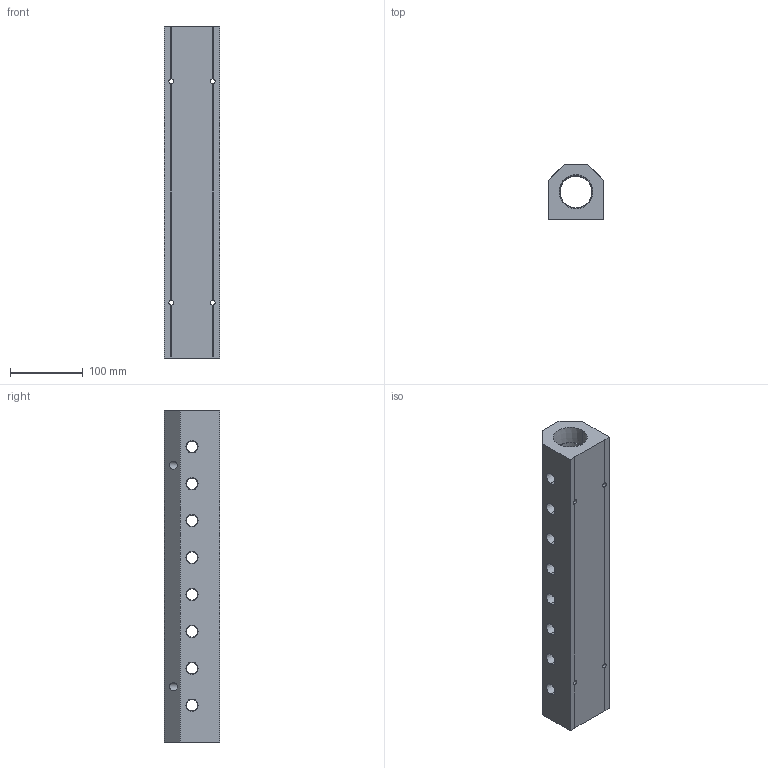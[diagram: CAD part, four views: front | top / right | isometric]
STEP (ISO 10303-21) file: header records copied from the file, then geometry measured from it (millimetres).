
FILE_DESCRIPTION (( 'STEP AP214' ), '1' );
FILE_NAME ('ALM8ACE-N6N24-457R.step', '2022-02-07T07:58:15', ( '' ), ( '' ), 'SwSTEP 2.0', 'SolidWorks 2020', '' );
FILE_SCHEMA (( 'AUTOMOTIVE_DESIGN' ));
Length unit declared in the file: millimetre
Products named in the file (1): ALM8ACE-N6N24-457R
Bounding box: 76.2 x 76.2 x 457 mm (x, y, z)
Volume: 1622484.3 mm3; surface area: 214379.8 mm2
Topology: 1 solids, 1 shells, 353 faces, 959 edges, 626 vertices
Faces by surface type: plane 226, bspline 57, cone 52, cylinder 18
Entity records: 20253 total; most frequent: CARTESIAN_POINT 8324, ORIENTED_EDGE 1918, DIRECTION 1459, EDGE_CURVE 959, LINE 697, VECTOR 697, VERTEX_POINT 626, EDGE_LOOP 429
